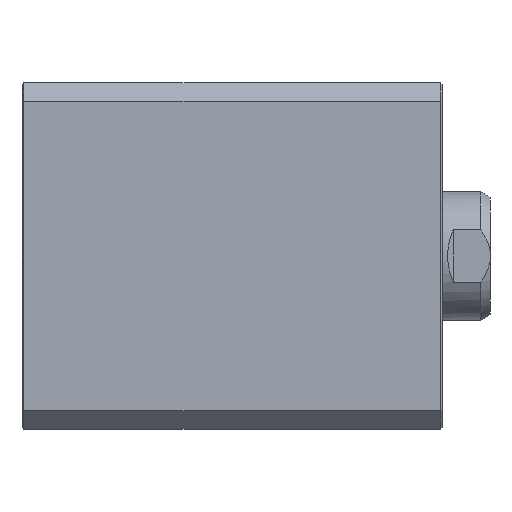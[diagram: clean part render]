
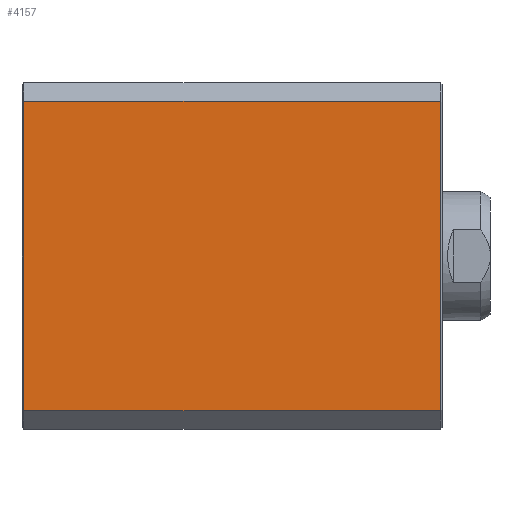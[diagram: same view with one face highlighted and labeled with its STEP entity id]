
A CAD part, left-side view. The second image highlights one B-rep face of the part: STEP entity #4157.
In plain terms, the highlighted planar face has unit normal (-1, 0, 0).
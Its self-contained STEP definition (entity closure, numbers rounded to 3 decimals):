
#151=LINE('',#5836,#445);
#153=LINE('',#5840,#447);
#154=LINE('',#5842,#448);
#155=LINE('',#5844,#449);
#445=VECTOR('',#4779,1000.);
#447=VECTOR('',#4783,1000.);
#448=VECTOR('',#4784,1000.);
#449=VECTOR('',#4785,1000.);
#709=PLANE('',#4383);
#1050=ORIENTED_EDGE('',*,*,#1737,.F.);
#1051=ORIENTED_EDGE('',*,*,#1739,.T.);
#1052=ORIENTED_EDGE('',*,*,#1740,.T.);
#1053=ORIENTED_EDGE('',*,*,#1741,.T.);
#1737=EDGE_CURVE('',#2089,#2090,#151,.T.);
#1739=EDGE_CURVE('',#2089,#2091,#153,.T.);
#1740=EDGE_CURVE('',#2091,#2092,#154,.T.);
#1741=EDGE_CURVE('',#2092,#2090,#155,.T.);
#2089=VERTEX_POINT('',#5835);
#2090=VERTEX_POINT('',#5837);
#2091=VERTEX_POINT('',#5841);
#2092=VERTEX_POINT('',#5843);
#2377=EDGE_LOOP('',(#1050,#1051,#1052,#1053));
#2615=FACE_BOUND('',#2377,.T.);
#4157=ADVANCED_FACE('',(#2615),#709,.T.);
#4383=AXIS2_PLACEMENT_3D('',#5839,#4781,#4782);
#4779=DIRECTION('',(0.,-1.,0.));
#4781=DIRECTION('',(-1.,0.,0.));
#4782=DIRECTION('',(0.,-1.,0.));
#4783=DIRECTION('',(0.,0.,-1.));
#4784=DIRECTION('',(0.,-1.,0.));
#4785=DIRECTION('',(0.,0.,1.));
#5835=CARTESIAN_POINT('',(-47.,113.5,42.));
#5836=CARTESIAN_POINT('',(-47.,94.,42.));
#5837=CARTESIAN_POINT('',(-47.,0.5,42.));
#5839=CARTESIAN_POINT('',(-47.,94.,42.));
#5840=CARTESIAN_POINT('',(-47.,113.5,42.));
#5841=CARTESIAN_POINT('',(-47.,113.5,-42.));
#5842=CARTESIAN_POINT('',(-47.,94.,-42.));
#5843=CARTESIAN_POINT('',(-47.,0.5,-42.));
#5844=CARTESIAN_POINT('',(-47.,0.5,42.));
